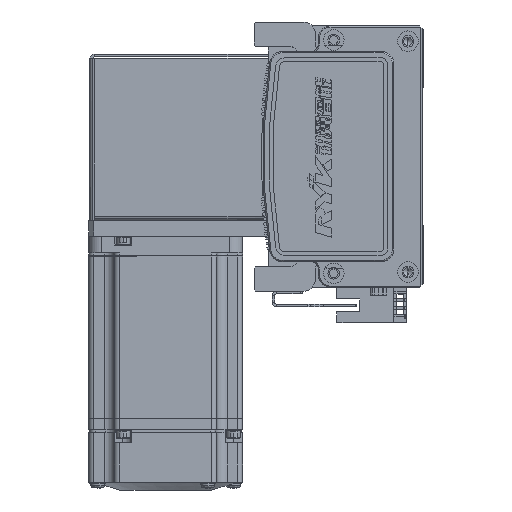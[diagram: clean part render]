
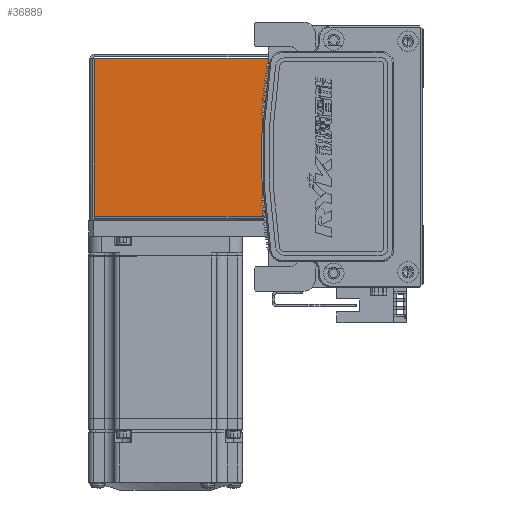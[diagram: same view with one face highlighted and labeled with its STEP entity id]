
A CAD part, left-side view. The second image highlights one B-rep face of the part: STEP entity #36889.
In plain terms, the highlighted planar face has unit normal (-1, 0, 0) as drawn and (0, 0, 1) by its records, which use the part's own axes.
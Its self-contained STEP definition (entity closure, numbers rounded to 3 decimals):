
#2120 = DIRECTION ( 'NONE',  ( -1., 0., 0. ) ) ;
#4334 = CARTESIAN_POINT ( 'NONE',  ( -30.793, 68.5, 35. ) ) ;
#4686 = AXIS2_PLACEMENT_3D ( 'NONE', #18971, #24941, #64255 ) ;
#6746 = ORIENTED_EDGE ( 'NONE', *, *, #19665, .F. ) ;
#9591 = ORIENTED_EDGE ( 'NONE', *, *, #43555, .T. ) ;
#9801 = FACE_OUTER_BOUND ( 'NONE', #53881, .T. ) ;
#9872 = CARTESIAN_POINT ( 'NONE',  ( 0., 68.5, 35. ) ) ;
#13645 = DIRECTION ( 'NONE',  ( 0., 1., 0. ) ) ;
#14071 = CARTESIAN_POINT ( 'NONE',  ( -30.793, 0.737, 35. ) ) ;
#14941 = DIRECTION ( 'NONE',  ( -1., 0., 0. ) ) ;
#18164 = LINE ( 'NONE', #9872, #49974 ) ;
#18971 = CARTESIAN_POINT ( 'NONE',  ( 0., 0., 35. ) ) ;
#19159 = ORIENTED_EDGE ( 'NONE', *, *, #36477, .T. ) ;
#19665 = EDGE_CURVE ( 'NONE', #29730, #24864, #48209, .T. ) ;
#20786 = DIRECTION ( 'NONE',  ( 0., 1., 0. ) ) ;
#24864 = VERTEX_POINT ( 'NONE', #14071 ) ;
#24941 = DIRECTION ( 'NONE',  ( 0., 0., -1. ) ) ;
#24972 = VERTEX_POINT ( 'NONE', #54981 ) ;
#26215 = EDGE_CURVE ( 'NONE', #24864, #52293, #39706, .T. ) ;
#29730 = VERTEX_POINT ( 'NONE', #35284 ) ;
#32897 = CARTESIAN_POINT ( 'NONE',  ( 30.763, 0.737, 35. ) ) ;
#35284 = CARTESIAN_POINT ( 'NONE',  ( 30.763, 0.737, 35. ) ) ;
#36074 = CARTESIAN_POINT ( 'NONE',  ( -30.793, 0., 35. ) ) ;
#36477 = EDGE_CURVE ( 'NONE', #29730, #24972, #48698, .T. ) ;
#36889 = ADVANCED_FACE ( 'NONE', ( #9801 ), #58284, .F. ) ;
#39706 = LINE ( 'NONE', #36074, #51184 ) ;
#43555 = EDGE_CURVE ( 'NONE', #24972, #52293, #18164, .T. ) ;
#46090 = VECTOR ( 'NONE', #20786, 1000. ) ;
#48209 = LINE ( 'NONE', #48788, #70371 ) ;
#48698 = LINE ( 'NONE', #32897, #46090 ) ;
#48788 = CARTESIAN_POINT ( 'NONE',  ( -32.5, 0.737, 35. ) ) ;
#49974 = VECTOR ( 'NONE', #2120, 1000. ) ;
#51184 = VECTOR ( 'NONE', #13645, 1000. ) ;
#52293 = VERTEX_POINT ( 'NONE', #4334 ) ;
#53881 = EDGE_LOOP ( 'NONE', ( #19159, #9591, #69532, #6746 ) ) ;
#54981 = CARTESIAN_POINT ( 'NONE',  ( 30.763, 68.5, 35. ) ) ;
#58284 = PLANE ( 'NONE',  #4686 ) ;
#64255 = DIRECTION ( 'NONE',  ( -1., 0., 0. ) ) ;
#69532 = ORIENTED_EDGE ( 'NONE', *, *, #26215, .F. ) ;
#70371 = VECTOR ( 'NONE', #14941, 1000. ) ;
